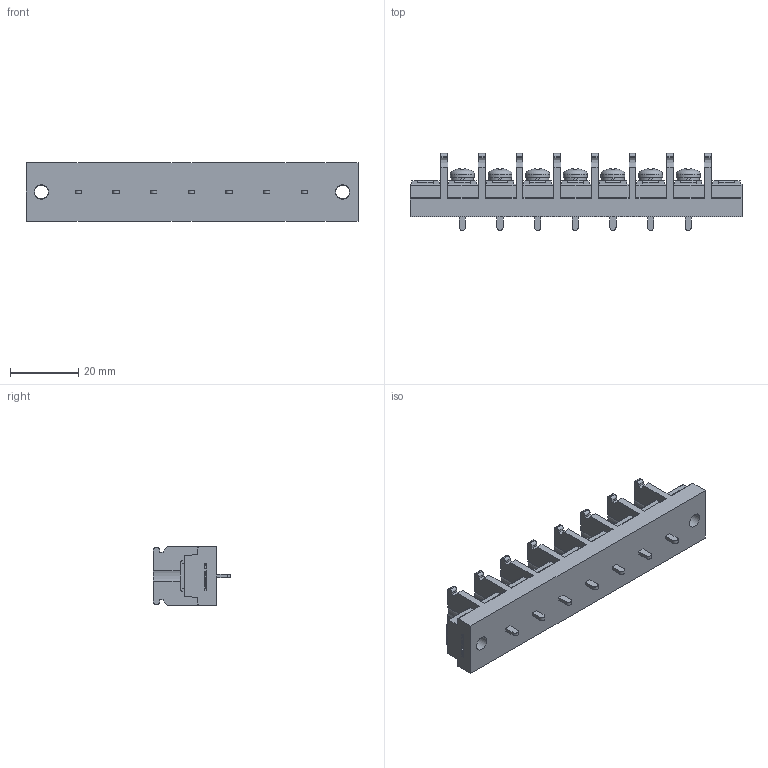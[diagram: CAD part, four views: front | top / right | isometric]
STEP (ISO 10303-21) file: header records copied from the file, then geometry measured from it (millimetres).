
FILE_DESCRIPTION(/* description */ ('Alibre Inc.'),/* implementation_level */ '2;1');
FILE_NAME(/* name */ 'export0',/* time_stamp */ '2015-10-19T19:08:51+09:00',/* author */ (''),/* organization */ (''),/* preprocessor_version */ 'ST-DEVELOPER v14',/* originating_system */ 'Alibre',/* authorisation */ '');
FILE_SCHEMA (('CONFIG_CONTROL_DESIGN'));
Length unit declared in the file: centimetre
Products named in the file (1): ID_1
Bounding box: 97 x 22.5 x 17 mm (x, y, z)
Volume: 17435.8 mm3; surface area: 9834.5 mm2
Topology: 1 solids, 1 shells, 969 faces, 2687 edges, 1785 vertices
Faces by surface type: plane 682, cylinder 134, bspline 104, cone 28, torus 14, sphere 7
Full cylindrical faces by diameter (mm): 4 x9, 4.2 x2, 6.5 x7, 7 x7
Entity records: 30008 total; most frequent: CARTESIAN_POINT 6499, ORIENTED_EDGE 5264, DIRECTION 3864, EDGE_CURVE 2632, VECTOR 1882, LINE 1882, VERTEX_POINT 1762, AXIS2_PLACEMENT_3D 1327
